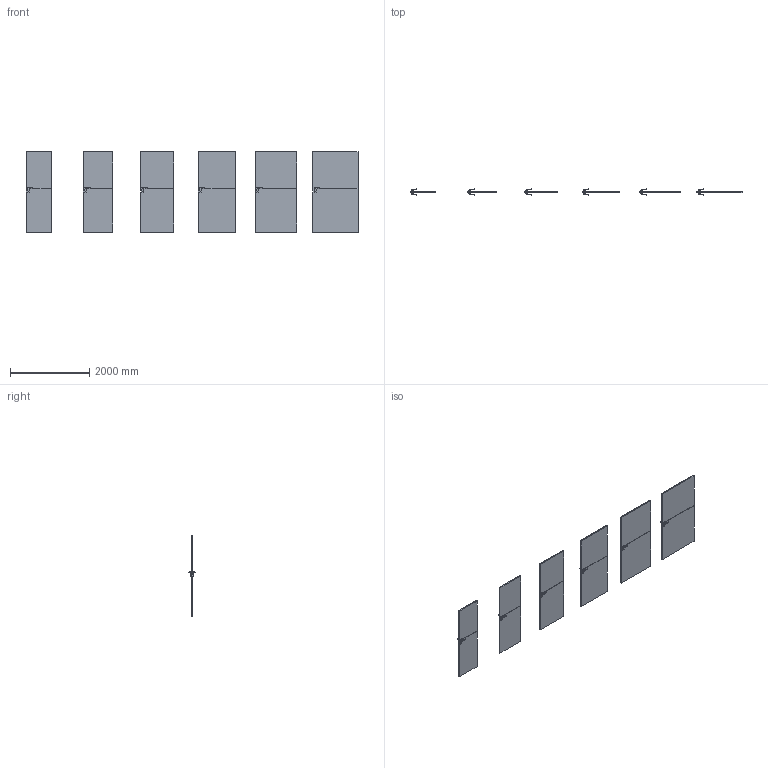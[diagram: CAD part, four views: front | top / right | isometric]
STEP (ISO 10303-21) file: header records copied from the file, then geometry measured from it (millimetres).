
FILE_DESCRIPTION(/* description */ (''),/* implementation_level */ '2;1');
FILE_NAME(/* name */ '049719_A_2-Skrzydło DESIRE model 2_ polska norma _PN__ odwrotna przylga..stp',/* time_stamp */ '2024-02-23T11:28:15+01:00',/* author */ (''),/* organization */ (''),/* preprocessor_version */ 'ST-DEVELOPER v16',/* originating_system */ 'SIEMENS PLM Software NX 11.0',/* authorisation */ '');
FILE_SCHEMA (('AUTOMOTIVE_DESIGN { 1 0 10303 214 3 1 1 1 }'));
Length unit declared in the file: millimetre
Products named in the file (1): bkni3644DE08axyo
Bounding box: 8389 x 153.27 x 2027 mm (x, y, z)
Volume: 421946512.7 mm3; surface area: 23342812.2 mm2
Topology: 30 solids, 30 shells, 1188 faces, 2808 edges, 1560 vertices
Faces by surface type: plane 480, cylinder 312, bspline 204, sphere 168, cone 12, torus 12
Entity records: 39508 total; most frequent: CARTESIAN_POINT 13993, ORIENTED_EDGE 5280, DIRECTION 5114, EDGE_CURVE 2640, AXIS2_PLACEMENT_3D 1849, VERTEX_POINT 1560, LINE 1416, VECTOR 1416
